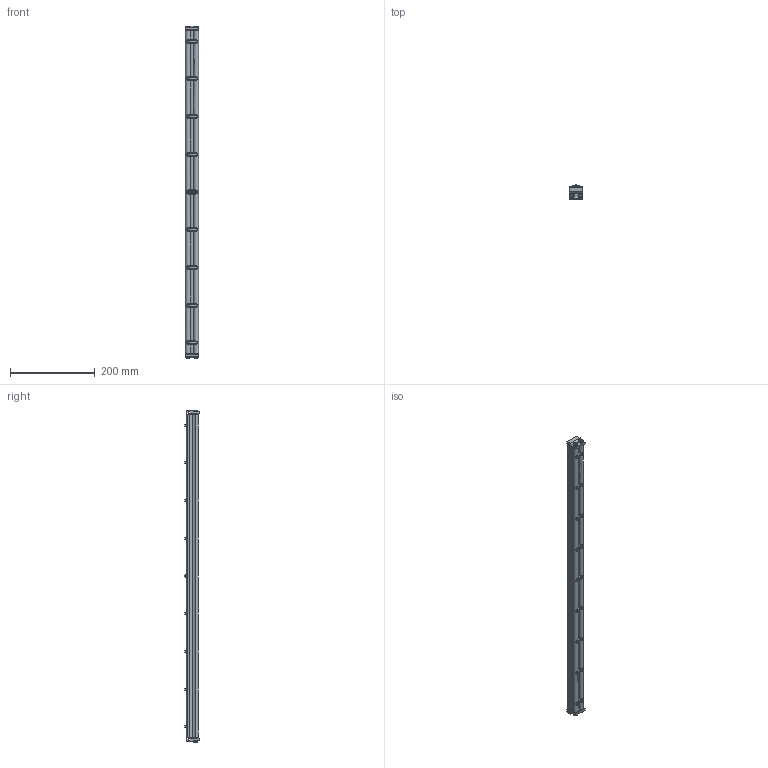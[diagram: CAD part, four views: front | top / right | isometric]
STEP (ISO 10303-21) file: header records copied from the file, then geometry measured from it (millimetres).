
FILE_DESCRIPTION((''),'2;1');
FILE_NAME('206523-30_ASM','2023-02-27T',('jenni.wallner'),(''),'PRO/ENGINEER BY PARAMETRIC TECHNOLOGY CORPORATION, 2012420','PRO/ENGINEER BY PARAMETRIC TECHNOLOGY CORPORATION, 2012420','');
FILE_SCHEMA(('CONFIG_CONTROL_DESIGN'));
Length unit declared in the file: inch
Products named in the file (7): 205977_205978_205979_205978; 240826; 9506XXM_950616M; 2410WW_241030; 2436WW_243630; ASM0001_ASM; 206523-30_ASM
Assembly tree (18 placements, depth 3):
  206523-30_ASM
    ASM0001_ASM
      205977_205978_205979_205978  x2
      240826  x9
      9506XXM_950616M  x4
      2410WW_241030
      2436WW_243630
Bounding box: 30.89 x 33.01 x 782.55 mm (x, y, z)
Volume: 375404.4 mm3; surface area: 222972.2 mm2
Topology: 17 solids, 17 shells, 611 faces, 1714 edges, 1127 vertices
Faces by surface type: cylinder 275, plane 208, cone 92, torus 36
Entity records: 14492 total; most frequent: CARTESIAN_POINT 3788, ORIENTED_EDGE 2346, DIRECTION 2174, EDGE_CURVE 1173, AXIS2_PLACEMENT_3D 811, VERTEX_POINT 781, VECTOR 552, LINE 552
